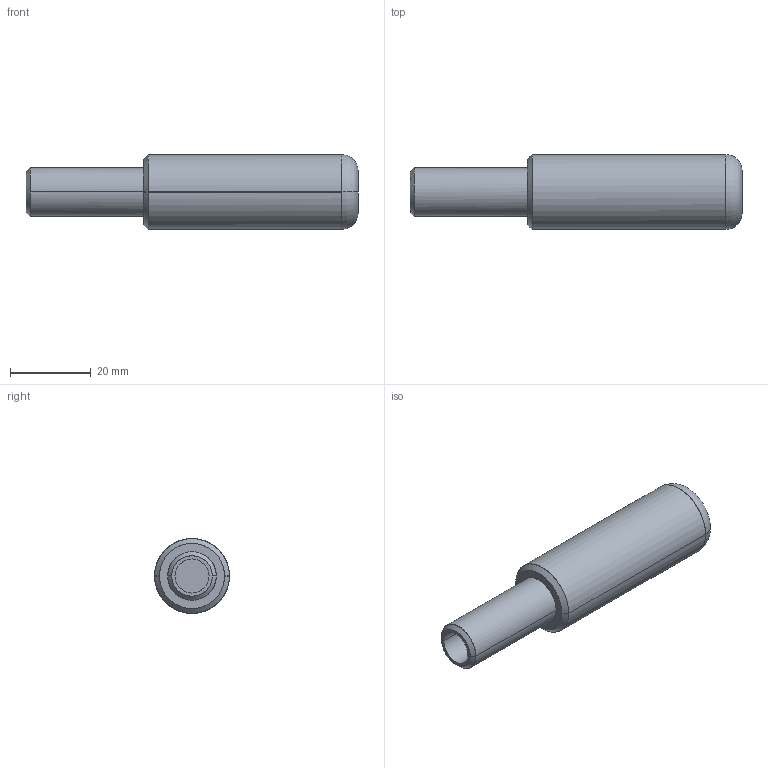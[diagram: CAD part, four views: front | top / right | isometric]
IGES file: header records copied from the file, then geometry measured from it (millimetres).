
Start section: --------------------------------------------------- ROBERT BOSCH GmbH, D-70442 Stuttgart Model-Name:      R412007715 Drawing-Name:    &dwg_name Format:          DIN &format Alle Rechte bei ROBERT BOSCH GmbH, auch fuer den Fall von Schutzrechtsanmeldungen. Jede Verfuegungs- befugnis, wie Kopier- und Weitergabe, bei uns. THIS DRAWING IS THE EXCLUSIVE PROPERTY OF ROBERT BOSCH GMBH. WITHOUT THEIR CONS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
Global section: file name: r412007715.igs; native system: Pro/ENGINEER by Parametric Technology Corporation; preprocessor: 2011490; author: mla1hc; organization: Unknown; date: 20150427.163147; units: millimetre
Bounding box: 82 x 18.5 x 18.5 mm (x, y, z)
Surface area: 5303.5 mm2 (no closed solid volume)
Topology: 0 solids, 0 shells, 16 faces, 60 edges, 60 vertices
Faces by surface type: revolution 12, bspline 4
